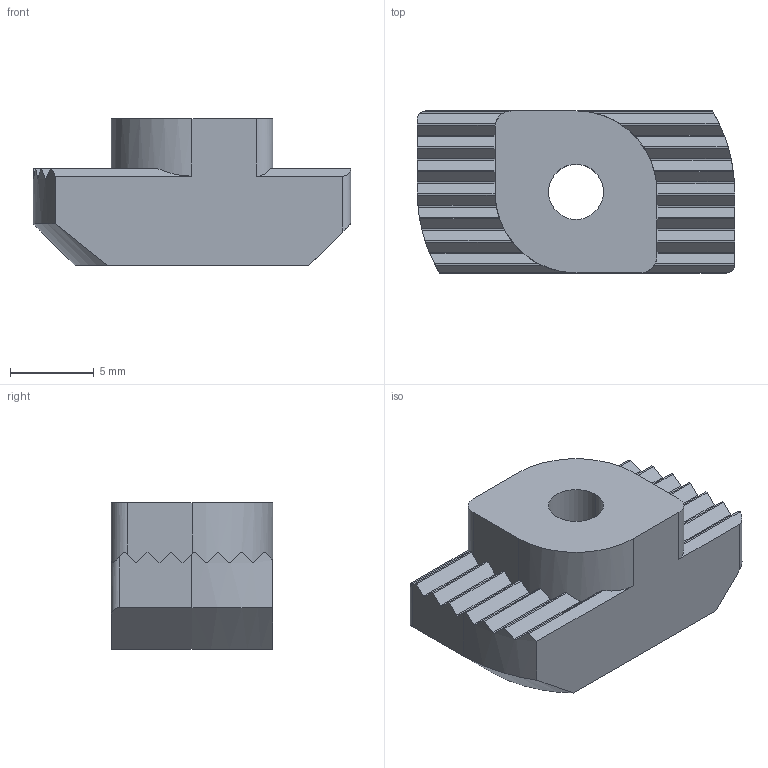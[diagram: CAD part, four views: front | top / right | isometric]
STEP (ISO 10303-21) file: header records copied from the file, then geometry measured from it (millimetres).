
FILE_DESCRIPTION (( 'STEP AP203' ), '1' );
FILE_NAME ('0110HMM4ST.STEP', '2024-09-06T07:15:53', ( 'Windows-Benutzer' ), ( '' ), 'SwSTEP 2.0', 'SolidWorks 2024', '' );
FILE_SCHEMA (( 'CONFIG_CONTROL_DESIGN' ));
Length unit declared in the file: millimetre
Products named in the file (1): 0110HMM4ST
Bounding box: 19 x 9.7 x 8.8 mm (x, y, z)
Volume: 1128.1 mm3; surface area: 834.3 mm2
Topology: 1 solids, 1 shells, 78 faces, 230 edges, 154 vertices
Faces by surface type: plane 66, cylinder 10, bspline 2
Entity records: 2714 total; most frequent: CARTESIAN_POINT 643, ORIENTED_EDGE 460, DIRECTION 379, EDGE_CURVE 230, VERTEX_POINT 154, VECTOR 143, LINE 143, AXIS2_PLACEMENT_3D 118
